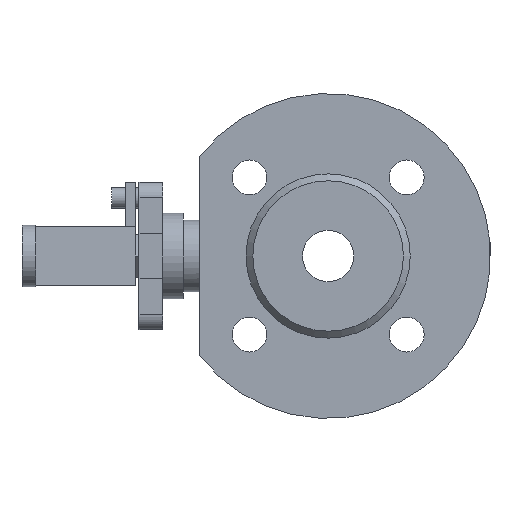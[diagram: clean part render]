
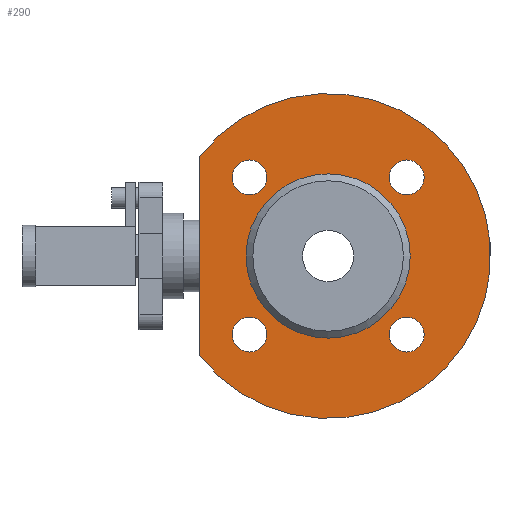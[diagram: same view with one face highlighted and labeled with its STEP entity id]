
A CAD part, left-side view. The second image highlights one B-rep face of the part: STEP entity #290.
In plain terms, the highlighted planar face has unit normal (-1, 0, 0).
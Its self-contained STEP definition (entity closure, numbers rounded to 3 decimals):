
#67 = ORIENTED_EDGE ( 'NONE', *, *, #1792, .T. ) ;
#113 = AXIS2_PLACEMENT_3D ( 'NONE', #682, #2368, #924 ) ;
#131 = AXIS2_PLACEMENT_3D ( 'NONE', #235, #1936, #471 ) ;
#195 = ORIENTED_EDGE ( 'NONE', *, *, #468, .F. ) ;
#216 = CIRCLE ( 'NONE', #1385, 5.1 ) ;
#235 = CARTESIAN_POINT ( 'NONE',  ( -16., 22.981, -22.981 ) ) ;
#236 = CARTESIAN_POINT ( 'NONE',  ( -16., 0., 0. ) ) ;
#290 = ADVANCED_FACE ( 'NONE', ( #2870, #941, #2793, #1588, #2159, #1518 ), #1892, .F. ) ;
#366 = EDGE_CURVE ( 'NONE', #3125, #3125, #553, .T. ) ;
#378 = CARTESIAN_POINT ( 'NONE',  ( -16., 0., 0. ) ) ;
#468 = EDGE_CURVE ( 'NONE', #2490, #2490, #216, .T. ) ;
#471 = DIRECTION ( 'NONE',  ( 0., 1., 0. ) ) ;
#472 = DIRECTION ( 'NONE',  ( 0., 0., 1. ) ) ;
#505 = CARTESIAN_POINT ( 'NONE',  ( -16., 28.081, -22.981 ) ) ;
#547 = VERTEX_POINT ( 'NONE', #2648 ) ;
#553 = CIRCLE ( 'NONE', #721, 24. ) ;
#620 = DIRECTION ( 'NONE',  ( 0., 0., 1. ) ) ;
#676 = DIRECTION ( 'NONE',  ( 1., 0., 0. ) ) ;
#682 = CARTESIAN_POINT ( 'NONE',  ( -16., 22.981, 22.981 ) ) ;
#704 = CARTESIAN_POINT ( 'NONE',  ( -16., -28.081, 22.981 ) ) ;
#721 = AXIS2_PLACEMENT_3D ( 'NONE', #236, #1938, #472 ) ;
#845 = EDGE_LOOP ( 'NONE', ( #195 ) ) ;
#906 = ORIENTED_EDGE ( 'NONE', *, *, #1033, .F. ) ;
#924 = DIRECTION ( 'NONE',  ( 0., 0., 1. ) ) ;
#941 = FACE_BOUND ( 'NONE', #2550, .T. ) ;
#995 = CARTESIAN_POINT ( 'NONE',  ( -16., 22.981, 28.081 ) ) ;
#1033 = EDGE_CURVE ( 'NONE', #547, #547, #2252, .T. ) ;
#1231 = CARTESIAN_POINT ( 'NONE',  ( -16., -22.981, -22.981 ) ) ;
#1250 = AXIS2_PLACEMENT_3D ( 'NONE', #1231, #2913, #1478 ) ;
#1264 = DIRECTION ( 'NONE',  ( 0., 0., -1. ) ) ;
#1267 = DIRECTION ( 'NONE',  ( -1., 0., 0. ) ) ;
#1357 = ORIENTED_EDGE ( 'NONE', *, *, #366, .F. ) ;
#1385 = AXIS2_PLACEMENT_3D ( 'NONE', #2716, #1267, #2947 ) ;
#1452 = CIRCLE ( 'NONE', #2048, 47.5 ) ;
#1478 = DIRECTION ( 'NONE',  ( 0., 0., -1. ) ) ;
#1518 = FACE_OUTER_BOUND ( 'NONE', #1896, .T. ) ;
#1566 = EDGE_CURVE ( 'NONE', #2413, #2242, #2839, .T. ) ;
#1588 = FACE_BOUND ( 'NONE', #1799, .T. ) ;
#1691 = VERTEX_POINT ( 'NONE', #505 ) ;
#1792 = EDGE_CURVE ( 'NONE', #2242, #2413, #1452, .T. ) ;
#1799 = EDGE_LOOP ( 'NONE', ( #2375 ) ) ;
#1892 = PLANE ( 'NONE',  #2565 ) ;
#1896 = EDGE_LOOP ( 'NONE', ( #67, #2317 ) ) ;
#1936 = DIRECTION ( 'NONE',  ( -1., 0., 0. ) ) ;
#1938 = DIRECTION ( 'NONE',  ( -1., 0., 0. ) ) ;
#2028 = CIRCLE ( 'NONE', #131, 5.1 ) ;
#2048 = AXIS2_PLACEMENT_3D ( 'NONE', #378, #2086, #620 ) ;
#2086 = DIRECTION ( 'NONE',  ( -1., 0., 0. ) ) ;
#2158 = CARTESIAN_POINT ( 'NONE',  ( -16., 0., 24. ) ) ;
#2159 = FACE_BOUND ( 'NONE', #2217, .T. ) ;
#2217 = EDGE_LOOP ( 'NONE', ( #1357 ) ) ;
#2222 = CIRCLE ( 'NONE', #113, 5.1 ) ;
#2227 = CARTESIAN_POINT ( 'NONE',  ( -16., 37.5, 29.155 ) ) ;
#2233 = EDGE_CURVE ( 'NONE', #1691, #1691, #2028, .T. ) ;
#2242 = VERTEX_POINT ( 'NONE', #2398 ) ;
#2252 = CIRCLE ( 'NONE', #1250, 5.1 ) ;
#2255 = VERTEX_POINT ( 'NONE', #995 ) ;
#2317 = ORIENTED_EDGE ( 'NONE', *, *, #1566, .T. ) ;
#2357 = EDGE_LOOP ( 'NONE', ( #2420 ) ) ;
#2365 = DIRECTION ( 'NONE',  ( 0., 0., -1. ) ) ;
#2368 = DIRECTION ( 'NONE',  ( -1., 0., 0. ) ) ;
#2375 = ORIENTED_EDGE ( 'NONE', *, *, #3079, .F. ) ;
#2398 = CARTESIAN_POINT ( 'NONE',  ( -16., 37.5, -29.155 ) ) ;
#2413 = VERTEX_POINT ( 'NONE', #2227 ) ;
#2420 = ORIENTED_EDGE ( 'NONE', *, *, #2233, .F. ) ;
#2490 = VERTEX_POINT ( 'NONE', #704 ) ;
#2550 = EDGE_LOOP ( 'NONE', ( #906 ) ) ;
#2565 = AXIS2_PLACEMENT_3D ( 'NONE', #3083, #676, #2365 ) ;
#2648 = CARTESIAN_POINT ( 'NONE',  ( -16., -22.981, -28.081 ) ) ;
#2705 = CARTESIAN_POINT ( 'NONE',  ( -16., 37.5, 0. ) ) ;
#2716 = CARTESIAN_POINT ( 'NONE',  ( -16., -22.981, 22.981 ) ) ;
#2763 = VECTOR ( 'NONE', #1264, 1000. ) ;
#2793 = FACE_BOUND ( 'NONE', #2357, .T. ) ;
#2839 = LINE ( 'NONE', #2705, #2763 ) ;
#2870 = FACE_BOUND ( 'NONE', #845, .T. ) ;
#2913 = DIRECTION ( 'NONE',  ( -1., 0., 0. ) ) ;
#2947 = DIRECTION ( 'NONE',  ( 0., -1., 0. ) ) ;
#3079 = EDGE_CURVE ( 'NONE', #2255, #2255, #2222, .T. ) ;
#3083 = CARTESIAN_POINT ( 'NONE',  ( -16., 47.5, 0. ) ) ;
#3125 = VERTEX_POINT ( 'NONE', #2158 ) ;
